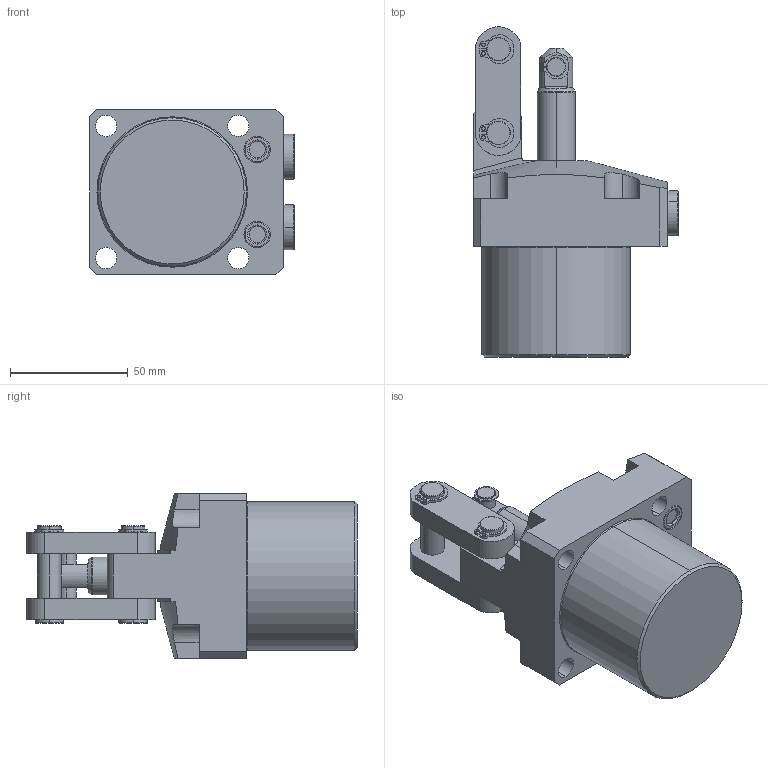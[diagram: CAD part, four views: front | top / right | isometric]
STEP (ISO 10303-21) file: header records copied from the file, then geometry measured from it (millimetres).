
FILE_DESCRIPTION(/* description */ (''),/* implementation_level */ '2;1');
FILE_NAME(/* name */ 'TPC10-F.stp',/* time_stamp */ '2025-01-05T10:29:24+08:00',/* author */ (''),/* organization */ (''),/* preprocessor_version */ 'ST-DEVELOPER v16.7',/* originating_system */ 'SIEMENS PLM Software NX 12.0',/* authorisation */ '');
FILE_SCHEMA (('AUTOMOTIVE_DESIGN { 1 0 10303 214 3 1 1 1 }'));
Length unit declared in the file: millimetre
Products named in the file (5): TPC10-F-02; TPC10-F-03; TPC10-F-01; TPC10-F-04; TPC10-F_stp
Assembly tree (5 placements, depth 2):
  TPC10-F_stp
    TPC10-F-04  x2
    TPC10-F-01
    TPC10-F-03
    TPC10-F-02
Bounding box: 86.8 x 140 x 70 mm (x, y, z)
Volume: 349976 mm3; surface area: 50491.8 mm2
Topology: 5 solids, 7 shells, 282 faces, 667 edges, 424 vertices
Faces by surface type: cylinder 116, plane 111, torus 34, cone 21
Entity records: 7868 total; most frequent: CARTESIAN_POINT 1474, DIRECTION 1411, ORIENTED_EDGE 1242, EDGE_CURVE 621, AXIS2_PLACEMENT_3D 562, VERTEX_POINT 396, EDGE_LOOP 303, CIRCLE 296
